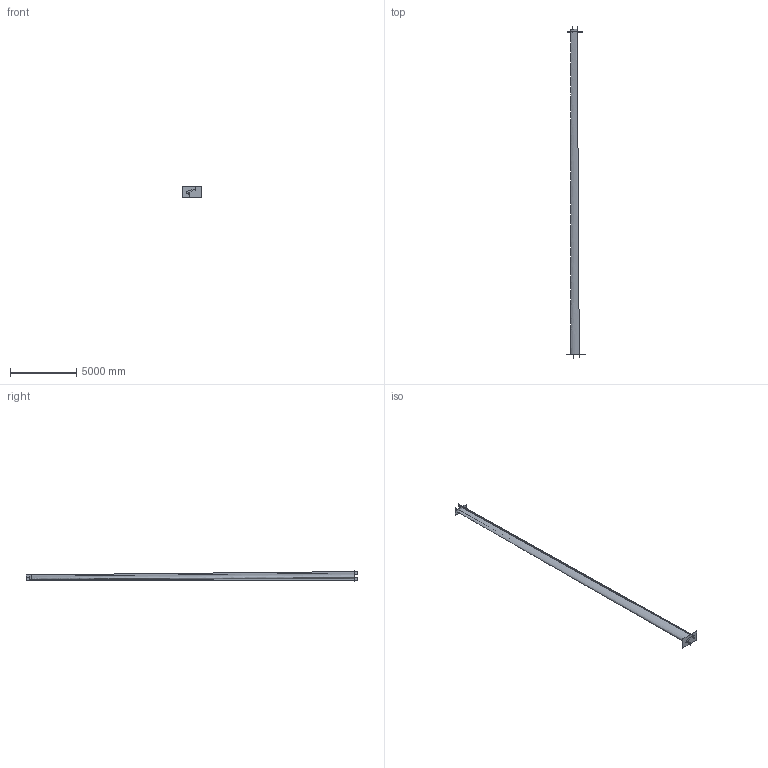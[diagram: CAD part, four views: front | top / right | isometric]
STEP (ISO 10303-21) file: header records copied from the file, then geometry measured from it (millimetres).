
FILE_DESCRIPTION((''),'2;1');
FILE_NAME('','2022-03-10T05:21:21',(''),(''),'','CADfix','');
FILE_SCHEMA(('AUTOMOTIVE_DESIGN { 1 0 10303 214 1 1 1 1 }'));
Length unit declared in the file: inch
Bounding box: 1485.89 x 25059.59 x 839.05 mm (x, y, z)
Surface area: 51450784.2 mm2 (no closed solid volume)
Topology: 0 solids, 0 shells, 6 faces, 24 edges, 24 vertices
Faces by surface type: bspline 6
Entity records: 18683 total; most frequent: CARTESIAN_POINT 18658, B_SPLINE_SURFACE_WITH_KNOTS 6, DIMENSIONAL_EXPONENTS 2, PLANE_ANGLE_MEASURE_WITH_UNIT 1, LENGTH_MEASURE_WITH_UNIT 1, UNCERTAINTY_MEASURE_WITH_UNIT 1, GEOMETRIC_SET 1, GEOMETRICALLY_BOUNDED_SURFACE_SHAPE_REPRESENTATION 1
